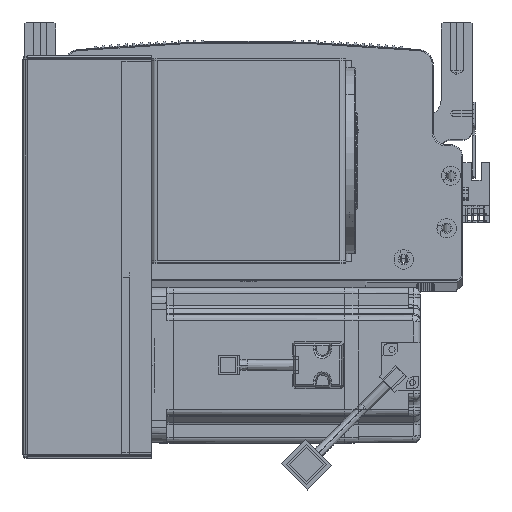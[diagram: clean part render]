
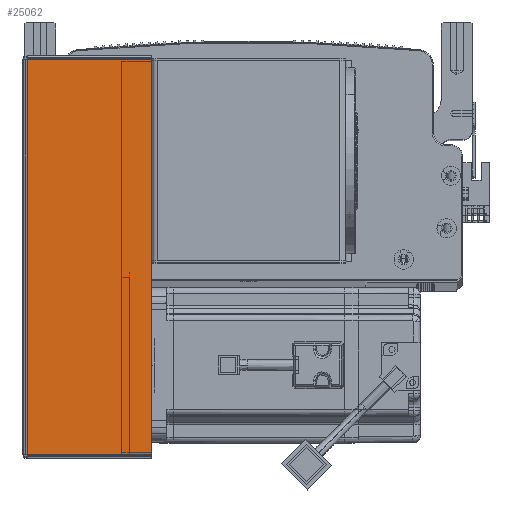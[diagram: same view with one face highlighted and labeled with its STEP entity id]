
A CAD part, top view. The second image highlights one B-rep face of the part: STEP entity #25062.
In plain terms, the highlighted planar face has unit normal (0, 0, 1) as drawn and (0, -1, 0) by its records, which use the part's own axes.
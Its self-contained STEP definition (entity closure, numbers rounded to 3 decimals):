
#10109 = EDGE_CURVE ( 'NONE', #65881, #72585, #44820, .T. ) ;
#11923 = VERTEX_POINT ( 'NONE', #83714 ) ;
#12113 = CARTESIAN_POINT ( 'NONE',  ( 64.5, -1.5, -203.293 ) ) ;
#13186 = CARTESIAN_POINT ( 'NONE',  ( 0.737, -1.5, -203.293 ) ) ;
#13334 = AXIS2_PLACEMENT_3D ( 'NONE', #29199, #58349, #28890 ) ;
#14628 = CARTESIAN_POINT ( 'NONE',  ( 64.5, -1.5, 0. ) ) ;
#16767 = CARTESIAN_POINT ( 'NONE',  ( 0., -1.5, -0.707 ) ) ;
#19366 = CARTESIAN_POINT ( 'NONE',  ( 0., -1.5, -203.293 ) ) ;
#20370 = VECTOR ( 'NONE', #24440, 1000. ) ;
#20883 = ORIENTED_EDGE ( 'NONE', *, *, #69558, .F. ) ;
#22644 = LINE ( 'NONE', #16767, #20370 ) ;
#24440 = DIRECTION ( 'NONE',  ( 1., 0., 0. ) ) ;
#25062 = ADVANCED_FACE ( 'NONE', ( #82167 ), #65723, .F. ) ;
#28890 = DIRECTION ( 'NONE',  ( -1., 0., 0. ) ) ;
#29199 = CARTESIAN_POINT ( 'NONE',  ( 0., -1.5, 0. ) ) ;
#31366 = CARTESIAN_POINT ( 'NONE',  ( 64.5, -1.5, -0.707 ) ) ;
#34531 = VECTOR ( 'NONE', #55592, 1000. ) ;
#37625 = ORIENTED_EDGE ( 'NONE', *, *, #10109, .T. ) ;
#44270 = ORIENTED_EDGE ( 'NONE', *, *, #89690, .T. ) ;
#44820 = LINE ( 'NONE', #14628, #60889 ) ;
#55592 = DIRECTION ( 'NONE',  ( 1., 0., 0. ) ) ;
#58349 = DIRECTION ( 'NONE',  ( 0., 1., 0. ) ) ;
#59238 = CARTESIAN_POINT ( 'NONE',  ( 0.737, -1.5, 0. ) ) ;
#60283 = EDGE_LOOP ( 'NONE', ( #91949, #44270, #37625, #20883 ) ) ;
#60889 = VECTOR ( 'NONE', #88099, 1000. ) ;
#65723 = PLANE ( 'NONE',  #13334 ) ;
#65881 = VERTEX_POINT ( 'NONE', #12113 ) ;
#65911 = VECTOR ( 'NONE', #89088, 1000. ) ;
#67055 = LINE ( 'NONE', #59238, #65911 ) ;
#69558 = EDGE_CURVE ( 'NONE', #11923, #72585, #22644, .T. ) ;
#71833 = VERTEX_POINT ( 'NONE', #13186 ) ;
#72585 = VERTEX_POINT ( 'NONE', #31366 ) ;
#76881 = LINE ( 'NONE', #19366, #34531 ) ;
#82167 = FACE_OUTER_BOUND ( 'NONE', #60283, .T. ) ;
#83714 = CARTESIAN_POINT ( 'NONE',  ( 0.737, -1.5, -0.707 ) ) ;
#88099 = DIRECTION ( 'NONE',  ( 0., 0., 1. ) ) ;
#89088 = DIRECTION ( 'NONE',  ( 0., 0., 1. ) ) ;
#89690 = EDGE_CURVE ( 'NONE', #71833, #65881, #76881, .T. ) ;
#91949 = ORIENTED_EDGE ( 'NONE', *, *, #94881, .F. ) ;
#94881 = EDGE_CURVE ( 'NONE', #71833, #11923, #67055, .T. ) ;
